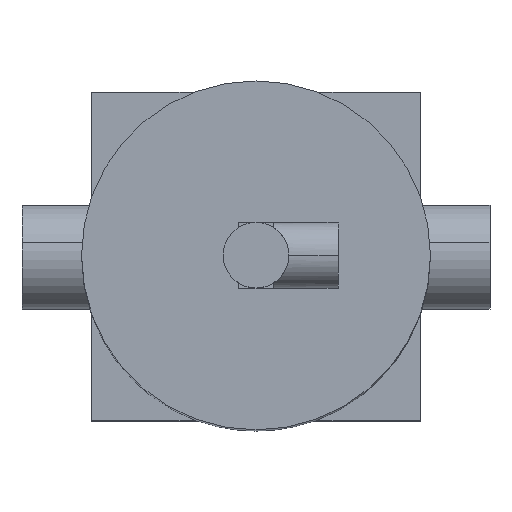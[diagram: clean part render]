
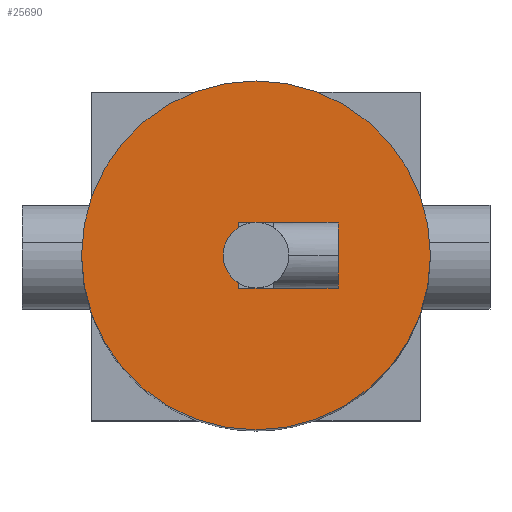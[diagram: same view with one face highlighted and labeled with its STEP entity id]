
A CAD part, top view. The second image highlights one B-rep face of the part: STEP entity #25690.
In plain terms, the highlighted planar face has unit normal (0, 0, 1) as drawn and (0, -0.707, -0.707) by its records, which use the part's own axes.
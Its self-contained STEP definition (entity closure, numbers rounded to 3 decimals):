
#24800=CARTESIAN_POINT('',(-17.,-151.321,
-211.425));
#24810=VERTEX_POINT('',#24800);
#25000=CARTESIAN_POINT('',(-17.,-211.425,
-151.321));
#25010=VERTEX_POINT('',#25000);
#25040=CARTESIAN_POINT('',(-17.,-181.373,
-181.373));
#25050=DIRECTION('',(0.,-0.707,
-0.707));
#25060=DIRECTION('',(0.,-0.707,
0.707));
#25070=AXIS2_PLACEMENT_3D('',#25040,#25050,#25060);
#25080=CIRCLE('',#25070,42.5);
#25090=EDGE_CURVE('',#25010,#24810,#25080,.T.);
#25440=CARTESIAN_POINT('',(-17.,-196.399,
-166.347));
#25450=DIRECTION('',(0.,0.707,
0.707));
#25460=DIRECTION('',(0.,-0.707,
0.707));
#25470=AXIS2_PLACEMENT_3D('',#25440,#25450,#25460);
#25480=PLANE('',#25470);
#25490=CARTESIAN_POINT('',(-17.,-181.373,
-181.373));
#25500=DIRECTION('',(0.,-0.707,
-0.707));
#25510=DIRECTION('',(1.,0.,0.));
#25520=AXIS2_PLACEMENT_3D('',#25490,#25500,#25510);
#25530=CIRCLE('',#25520,8.);
#25540=CARTESIAN_POINT('',(-25.,-181.373,
-181.373));
#25550=VERTEX_POINT('',#25540);
#25560=CARTESIAN_POINT('',(-9.,-181.373,
-181.373));
#25570=VERTEX_POINT('',#25560);
#25580=EDGE_CURVE('',#25550,#25570,#25530,.T.);
#25590=ORIENTED_EDGE('',*,*,#25580,.F.);
#25600=EDGE_CURVE('',#25570,#25550,#25530,.T.);
#25610=ORIENTED_EDGE('',*,*,#25600,.F.);
#25620=EDGE_LOOP('',(#25610,#25590));
#25630=FACE_BOUND('',#25620,.T.);
#25640=EDGE_CURVE('',#24810,#25010,#25080,.T.);
#25650=ORIENTED_EDGE('',*,*,#25640,.T.);
#25660=ORIENTED_EDGE('',*,*,#25090,.T.);
#25670=EDGE_LOOP('',(#25660,#25650));
#25680=FACE_OUTER_BOUND('',#25670,.T.);
#25690=ADVANCED_FACE('',(#25630,#25680),#25480,.F.);
